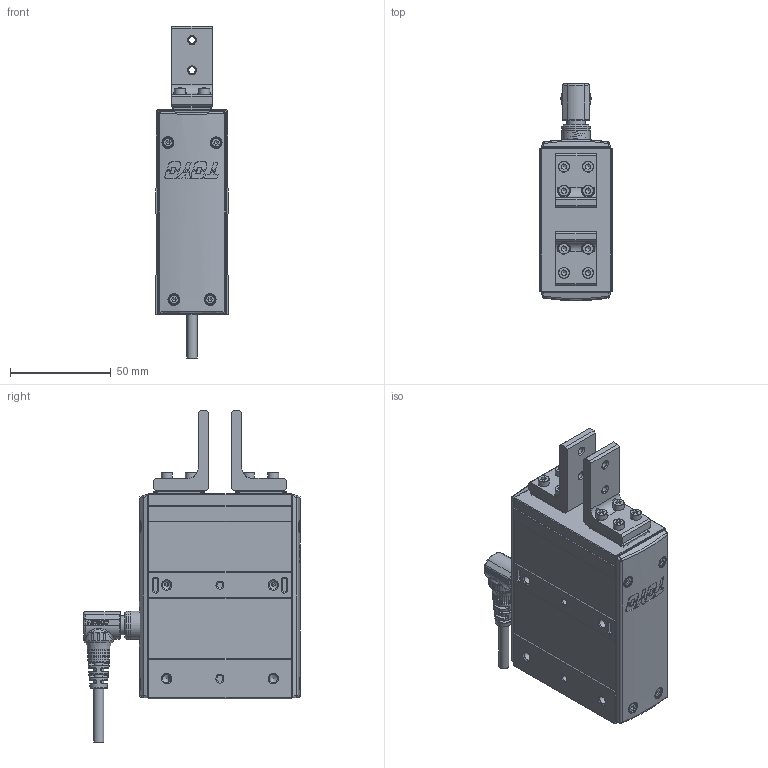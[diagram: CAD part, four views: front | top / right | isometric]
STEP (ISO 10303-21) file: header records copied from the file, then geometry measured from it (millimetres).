
FILE_DESCRIPTION(/* description */ ('STEP AP214'),/* implementation_level */ '2;1');
FILE_NAME(/* name */ 'D:\2025.02.25 帶電匯整給泊舟\CHZ2-N14-WW.stp',/* time_stamp */ '2025-02-26T10:48:29+08:00',/* author */ ('T10033'),/* organization */ (''),/* preprocessor_version */ 'ST-DEVELOPER v18.1',/* originating_system */ 'Autodesk Inventor 2020',/* authorisation */ '');
FILE_SCHEMA (('CONFIG_CONTROL_DESIGN','TECHNICAL_DATA_PACKAGING'));
Products named in the file (8): CHZ2-S14; 慶陞金屬頭; 62TW34T6SE34_Shrinkwrap_1; 6T3Y7E45_Shrinkwrap_1; M12-14PIN 線端90度接頭-05中繼線; 43Y345YED45R; 12021-000016; socket head cap screw_iso_ISO 4762 M3 x 12 - 12C
Assembly tree (12 placements, depth 3):
  CHZ2-S14
    慶陞金屬頭
    62TW34T6SE34_Shrinkwrap_1
    6T3Y7E45_Shrinkwrap_1  x2
    M12-14PIN 線端90度接頭-05中繼線
    43Y345YED45R  x2
      12021-000016
      socket head cap screw_iso_ISO 4762 M3 x 12 - 12C
Bounding box: 36 x 107.8 x 165 mm (x, y, z)
Volume: 300904.1 mm3; surface area: 69238.8 mm2
Topology: 47 solids, 51 shells, 2924 faces, 7848 edges, 5145 vertices
Faces by surface type: plane 1676, cylinder 544, cone 402, bspline 157, torus 125, sphere 20
Full cylindrical faces by diameter (mm): 0.6 x14, 0.65 x14, 1 x18, 2.05 x16, 2.5 x20, 2.7 x8, 3 x17, 3.2 x8, 3.3 x4, 4.2 x12, 4.5 x8, 4.7 x4, 5 x1, 5.5 x10, 6.8 x2, 8 x1, 8.9 x1, 9.5 x2, 9.6 x1, 10.5 x2, 10.9 x1, 11 x2, 11.2 x1, 11.25 x1, 12 x1, 13 x1, 13.8 x1, 14 x2, 14.4 x1
Entity records: 115843 total; most frequent: CARTESIAN_POINT 47029, DIRECTION 13932, ORIENTED_EDGE 13868, EDGE_CURVE 6942, AXIS2_PLACEMENT_3D 5140, VERTEX_POINT 4581, LINE 3652, VECTOR 3652
